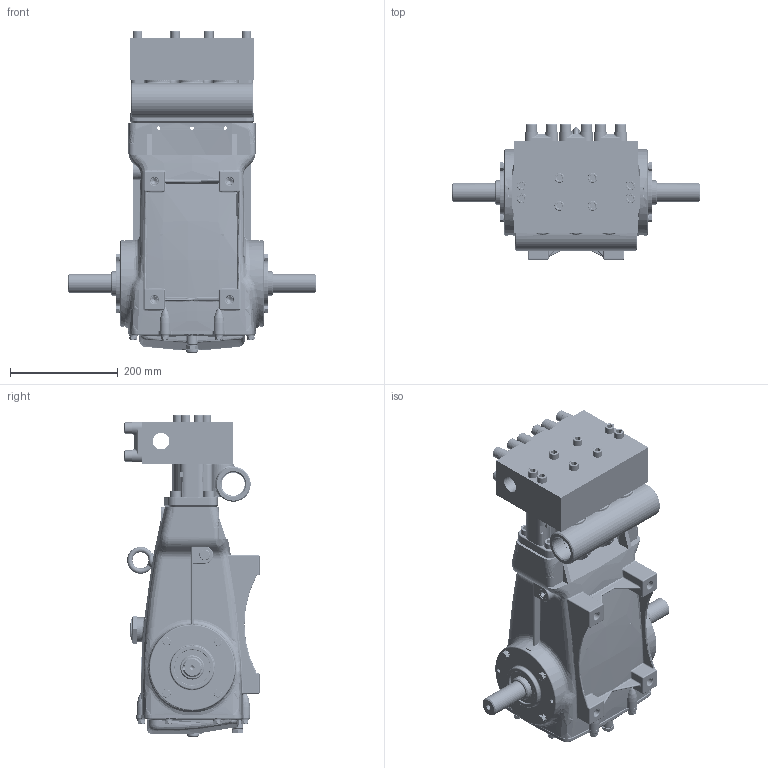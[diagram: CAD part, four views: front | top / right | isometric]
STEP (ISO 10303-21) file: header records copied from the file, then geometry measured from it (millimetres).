
FILE_DESCRIPTION (( 'STEP AP214' ), '1' );
FILE_NAME ('3560.STEP', '2012-12-13T10:09:45', ( '' ), ( '' ), 'SwSTEP 2.0', 'SolidWorks 2012', '' );
FILE_SCHEMA (( 'AUTOMOTIVE_DESIGN' ));
Length unit declared in the file: millimetre
Products named in the file (1): 3560
Bounding box: 460 x 250.99 x 597.85 mm (x, y, z)
Volume: 9646786.8 mm3; surface area: 1659219.8 mm2
Topology: 3 solids, 64 shells, 4984 faces, 12275 edges, 7547 vertices
Faces by surface type: plane 1990, cylinder 1241, bspline 850, torus 494, cone 373, sphere 36
Entity records: 225820 total; most frequent: CARTESIAN_POINT 74046, ORIENTED_EDGE 24104, DIRECTION 22246, EDGE_CURVE 12052, AXIS2_PLACEMENT_3D 8441, VERTEX_POINT 7536, EDGE_LOOP 5382, LINE 5364
